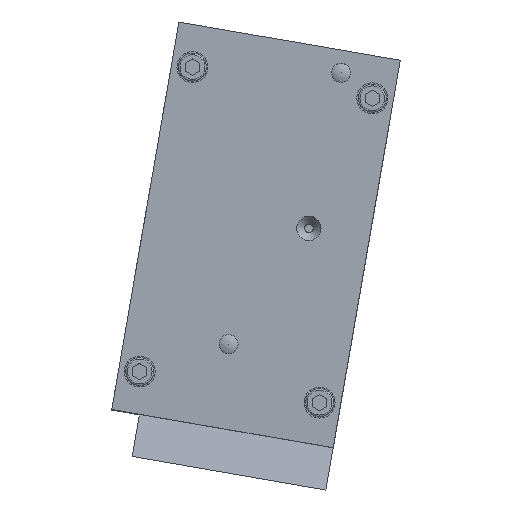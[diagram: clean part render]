
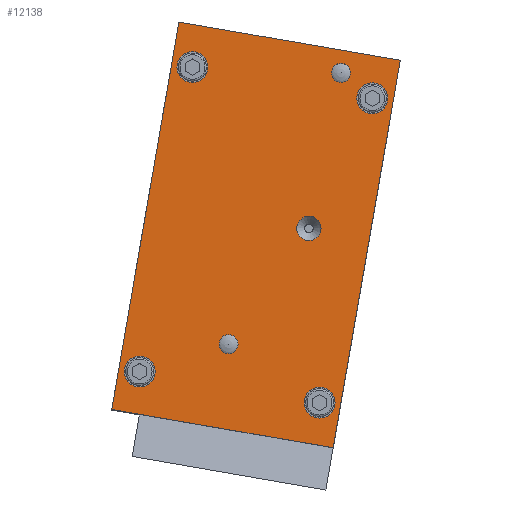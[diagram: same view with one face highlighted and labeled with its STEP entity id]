
A CAD part, top view. The second image highlights one B-rep face of the part: STEP entity #12138.
In plain terms, the highlighted planar face has unit normal (0, 0, 1).
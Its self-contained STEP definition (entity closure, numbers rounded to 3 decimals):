
#1005=FACE_BOUND('',#3844,.T.);
#1006=FACE_BOUND('',#3845,.T.);
#1007=FACE_BOUND('',#3846,.T.);
#1008=FACE_BOUND('',#3847,.T.);
#1009=FACE_BOUND('',#3848,.T.);
#1010=FACE_BOUND('',#3849,.T.);
#1011=FACE_BOUND('',#3850,.T.);
#1174=PLANE('',#13211);
#1548=LINE('',#18133,#2219);
#1549=LINE('',#18135,#2220);
#1550=LINE('',#18137,#2221);
#1551=LINE('',#18138,#2222);
#2219=VECTOR('',#14634,10.);
#2220=VECTOR('',#14635,10.);
#2221=VECTOR('',#14636,10.);
#2222=VECTOR('',#14637,10.);
#3075=FACE_OUTER_BOUND('',#3843,.T.);
#3843=EDGE_LOOP('',(#8518,#8519,#8520,#8521));
#3844=EDGE_LOOP('',(#8522));
#3845=EDGE_LOOP('',(#8523));
#3846=EDGE_LOOP('',(#8524));
#3847=EDGE_LOOP('',(#8525));
#3848=EDGE_LOOP('',(#8526));
#3849=EDGE_LOOP('',(#8527));
#3850=EDGE_LOOP('',(#8528));
#4778=CIRCLE('',#13210,4.343);
#4779=CIRCLE('',#13212,5.5);
#4780=CIRCLE('',#13213,5.5);
#4781=CIRCLE('',#13214,5.5);
#4782=CIRCLE('',#13215,5.5);
#4783=CIRCLE('',#13216,3.375);
#4784=CIRCLE('',#13217,3.375);
#5459=VERTEX_POINT('',#18127);
#5460=VERTEX_POINT('',#18131);
#5461=VERTEX_POINT('',#18132);
#5462=VERTEX_POINT('',#18134);
#5463=VERTEX_POINT('',#18136);
#5464=VERTEX_POINT('',#18139);
#5465=VERTEX_POINT('',#18141);
#5466=VERTEX_POINT('',#18143);
#5467=VERTEX_POINT('',#18145);
#5468=VERTEX_POINT('',#18147);
#5469=VERTEX_POINT('',#18149);
#6660=EDGE_CURVE('',#5459,#5459,#4778,.T.);
#6661=EDGE_CURVE('',#5460,#5461,#1548,.T.);
#6662=EDGE_CURVE('',#5461,#5462,#1549,.T.);
#6663=EDGE_CURVE('',#5462,#5463,#1550,.T.);
#6664=EDGE_CURVE('',#5463,#5460,#1551,.T.);
#6665=EDGE_CURVE('',#5464,#5464,#4779,.T.);
#6666=EDGE_CURVE('',#5465,#5465,#4780,.T.);
#6667=EDGE_CURVE('',#5466,#5466,#4781,.T.);
#6668=EDGE_CURVE('',#5467,#5467,#4782,.T.);
#6669=EDGE_CURVE('',#5468,#5468,#4783,.T.);
#6670=EDGE_CURVE('',#5469,#5469,#4784,.T.);
#8518=ORIENTED_EDGE('',*,*,#6661,.T.);
#8519=ORIENTED_EDGE('',*,*,#6662,.T.);
#8520=ORIENTED_EDGE('',*,*,#6663,.T.);
#8521=ORIENTED_EDGE('',*,*,#6664,.T.);
#8522=ORIENTED_EDGE('',*,*,#6665,.T.);
#8523=ORIENTED_EDGE('',*,*,#6666,.T.);
#8524=ORIENTED_EDGE('',*,*,#6667,.T.);
#8525=ORIENTED_EDGE('',*,*,#6668,.T.);
#8526=ORIENTED_EDGE('',*,*,#6669,.T.);
#8527=ORIENTED_EDGE('',*,*,#6670,.T.);
#8528=ORIENTED_EDGE('',*,*,#6660,.F.);
#12138=ADVANCED_FACE('',(#3075,#1005,#1006,#1007,#1008,#1009,#1010,#1011),
#1174,.T.);
#13210=AXIS2_PLACEMENT_3D('',#18129,#14630,#14631);
#13211=AXIS2_PLACEMENT_3D('',#18130,#14632,#14633);
#13212=AXIS2_PLACEMENT_3D('',#18140,#14638,#14639);
#13213=AXIS2_PLACEMENT_3D('',#18142,#14640,#14641);
#13214=AXIS2_PLACEMENT_3D('',#18144,#14642,#14643);
#13215=AXIS2_PLACEMENT_3D('',#18146,#14644,#14645);
#13216=AXIS2_PLACEMENT_3D('',#18148,#14646,#14647);
#13217=AXIS2_PLACEMENT_3D('',#18150,#14648,#14649);
#14630=DIRECTION('center_axis',(0.,0.,1.));
#14631=DIRECTION('ref_axis',(1.,0.,0.));
#14632=DIRECTION('center_axis',(0.,0.,1.));
#14633=DIRECTION('ref_axis',(1.,0.,0.));
#14634=DIRECTION('',(-0.985,0.171,0.));
#14635=DIRECTION('',(-0.171,-0.985,0.));
#14636=DIRECTION('',(0.985,-0.171,0.));
#14637=DIRECTION('',(0.171,0.985,0.));
#14638=DIRECTION('center_axis',(0.,0.,-1.));
#14639=DIRECTION('ref_axis',(1.,0.,0.));
#14640=DIRECTION('center_axis',(0.,0.,-1.));
#14641=DIRECTION('ref_axis',(1.,0.,0.));
#14642=DIRECTION('center_axis',(0.,0.,-1.));
#14643=DIRECTION('ref_axis',(1.,0.,0.));
#14644=DIRECTION('center_axis',(0.,0.,-1.));
#14645=DIRECTION('ref_axis',(1.,0.,0.));
#14646=DIRECTION('center_axis',(0.,0.,-1.));
#14647=DIRECTION('ref_axis',(1.,0.,0.));
#14648=DIRECTION('center_axis',(0.,0.,-1.));
#14649=DIRECTION('ref_axis',(1.,0.,0.));
#18127=CARTESIAN_POINT('',(9.767,-42.547,1.514));
#18129=CARTESIAN_POINT('Origin',(14.109,-42.547,1.514));
#18130=CARTESIAN_POINT('Origin',(0.204,-45.705,1.514));
#18131=CARTESIAN_POINT('',(46.635,17.296,1.514));
#18132=CARTESIAN_POINT('',(-32.192,30.947,1.514));
#18133=CARTESIAN_POINT('',(29.392,20.282,1.514));
#18134=CARTESIAN_POINT('',(-56.08,-107.,1.514));
#18135=CARTESIAN_POINT('',(-38.164,-3.54,1.514));
#18136=CARTESIAN_POINT('',(22.747,-120.651,1.514));
#18137=CARTESIAN_POINT('',(-28.984,-111.692,1.514));
#18138=CARTESIAN_POINT('',(28.719,-86.164,1.514));
#18139=CARTESIAN_POINT('',(31.186,3.796,1.514));
#18140=CARTESIAN_POINT('Origin',(36.686,3.796,1.514));
#18141=CARTESIAN_POINT('',(-51.631,-93.5,1.514));
#18142=CARTESIAN_POINT('Origin',(-46.131,-93.5,1.514));
#18143=CARTESIAN_POINT('',(12.416,-104.591,1.514));
#18144=CARTESIAN_POINT('Origin',(17.916,-104.591,1.514));
#18145=CARTESIAN_POINT('',(-32.861,14.887,1.514));
#18146=CARTESIAN_POINT('Origin',(-27.361,14.887,1.514));
#18147=CARTESIAN_POINT('',(22.188,12.826,1.514));
#18148=CARTESIAN_POINT('Origin',(25.563,12.826,1.514));
#18149=CARTESIAN_POINT('',(-17.855,-83.744,1.514));
#18150=CARTESIAN_POINT('Origin',(-14.48,-83.744,1.514));
